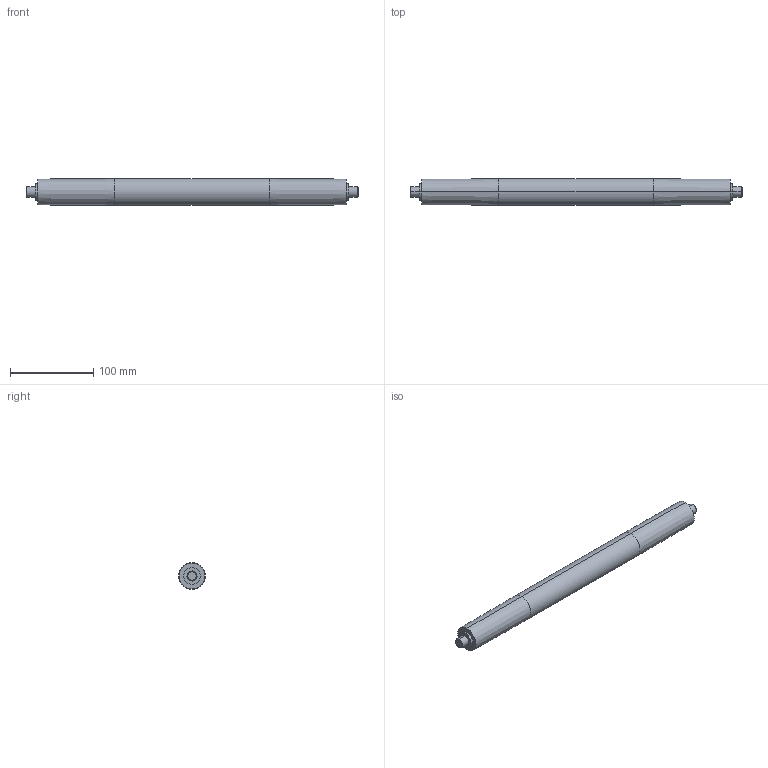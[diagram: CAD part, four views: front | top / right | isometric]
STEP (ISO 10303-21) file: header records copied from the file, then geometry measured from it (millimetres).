
FILE_DESCRIPTION (( 'STEP AP214' ), '1' );
FILE_NAME ('084.030.193.STEP', '2021-02-05T15:50:44', ( '' ), ( '' ), 'SwSTEP 2.0', 'SolidWorks 2018', '' );
FILE_SCHEMA (( 'AUTOMOTIVE_DESIGN' ));
Length unit declared in the file: millimetre
Products named in the file (1): 084.030.193
Bounding box: 398 x 32 x 32 mm (x, y, z)
Volume: 297308 mm3; surface area: 39575.3 mm2
Topology: 1 solids, 1 shells, 24 faces, 46 edges, 28 vertices
Faces by surface type: cylinder 10, cone 8, plane 6
Entity records: 648 total; most frequent: DIRECTION 124, CARTESIAN_POINT 99, ORIENTED_EDGE 92, AXIS2_PLACEMENT_3D 53, EDGE_CURVE 46, EDGE_LOOP 28, CIRCLE 28, VERTEX_POINT 28
